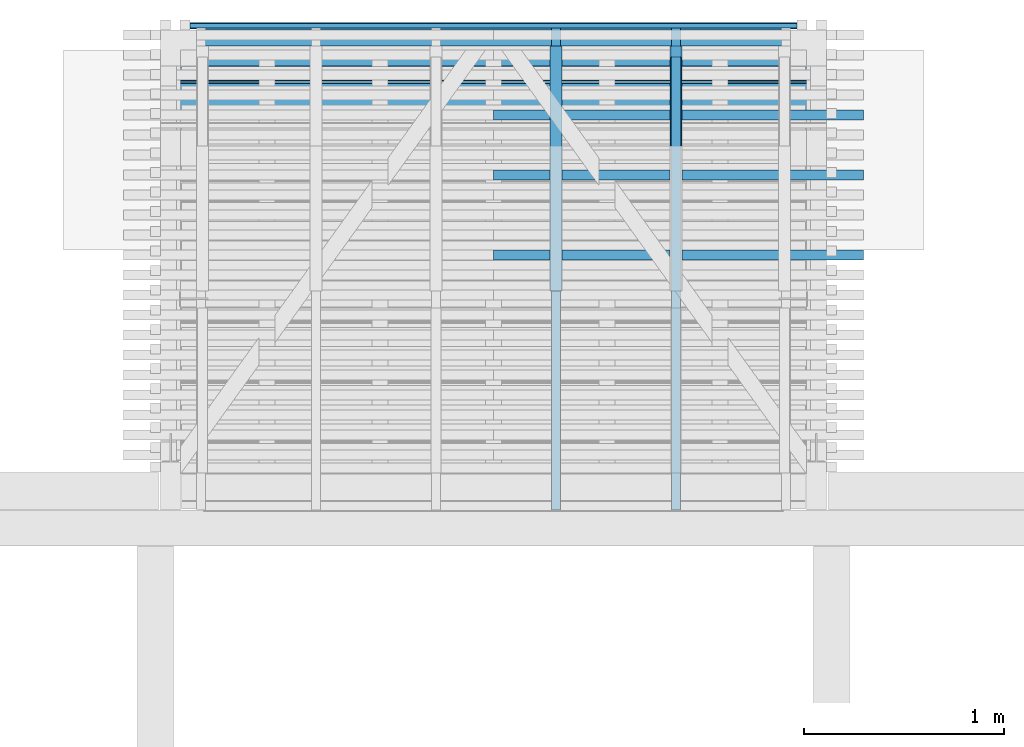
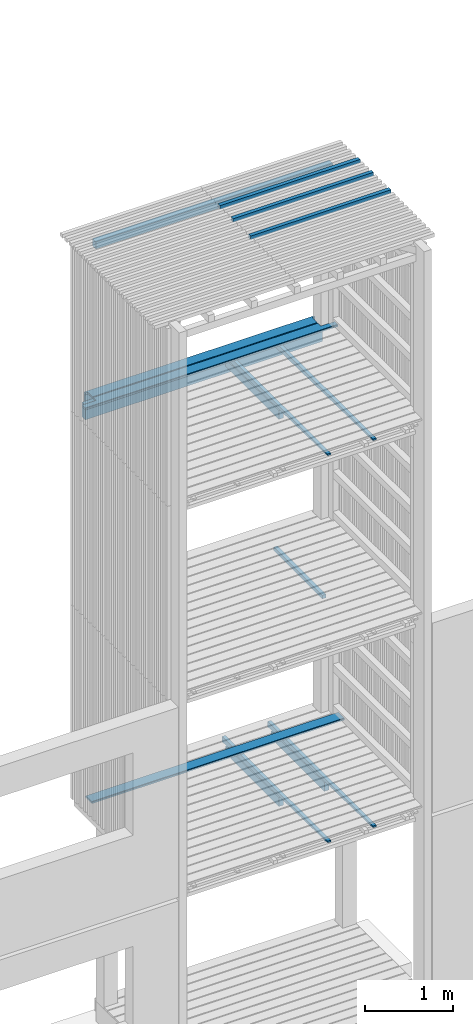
# One storey, part 26 of 182: 17 beams.
"""IFC2X3 building model written with IfcOpenShell, lengths in metres."""

from ifc_helpers import new_model, si_unit, frame, origin, place, context, project, spatial, faceted_brep, element, save


model = new_model("IFC2X3")

# Units and contexts
model_context = context("Model", 3, precision=1e-06, world=origin())
ifc_project = project(units=[si_unit("LENGTHUNIT", "METRE"), si_unit("PLANEANGLEUNIT", "RADIAN")], contexts=[model_context])

# Site, building, storey
site = spatial("IfcSite", under=ifc_project, CompositionType="ELEMENT")
building = spatial("IfcBuilding", under=site, CompositionType="ELEMENT")
storey = spatial("IfcBuildingStorey", under=building, Name="vs", CompositionType="ELEMENT", Elevation=-0.85)

# Beams
placement = place(None, origin())
beam_1_placement = place(placement, frame((6.496015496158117, 12.834577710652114, 8.13349999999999), z_axis=(0.0, 0.0, 1.0), x_axis=(-1.0, 0.0, 0.0)))
element("IfcBeam", 1, at=beam_1_placement, inside=storey, Name="Caillebotis", context=model_context, shape_type="Brep", body=[
    faceted_brep([(3.033636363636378, -0.072499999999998, -0.013500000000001), (3.033636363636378, -0.072499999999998, 0.0085), (2e-15, -0.072499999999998, 0.0085), (2e-15, -0.072499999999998, -0.013500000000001), (2.996818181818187, 0.072500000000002, 0.008499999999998), (2.996818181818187, 0.067500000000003, 0.013499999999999), (2.996818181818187, -0.040499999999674, 0.013499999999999), (2.996818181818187, -0.040499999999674, -0.013500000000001), (2.996818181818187, 0.072500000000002, -0.013500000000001), (0.036818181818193, -0.040499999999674, -0.013500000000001), (0.036818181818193, 0.072499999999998, -0.013500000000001), (2.996818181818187, 0.072500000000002, -0.013500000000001), (2.996818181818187, -0.040499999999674, -0.013500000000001), (3.033636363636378, -0.040499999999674, -0.013500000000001), (3.033636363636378, -0.072499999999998, -0.013500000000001), (2e-15, -0.072499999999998, -0.013500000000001), (2e-15, -0.040499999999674, -0.013500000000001), (3.033636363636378, -0.072499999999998, 0.0085), (3.033636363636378, -0.072499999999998, -0.013500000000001), (3.033636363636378, -0.040499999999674, -0.013500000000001), (3.033636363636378, -0.040499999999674, 0.013499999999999), (3.033636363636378, -0.067500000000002, 0.013499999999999), (3.033636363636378, -0.040499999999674, 0.013499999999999), (3.033636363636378, -0.040499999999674, -0.013500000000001), (2.996818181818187, -0.040499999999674, -0.013500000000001), (2.996818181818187, -0.040499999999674, 0.013499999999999), (2.996818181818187, 0.072500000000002, 0.008499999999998), (2.996818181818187, 0.072500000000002, -0.013500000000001), (0.036818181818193, 0.072499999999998, -0.013500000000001), (0.036818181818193, 0.072499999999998, 0.0085), (2.996818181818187, 0.067500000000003, 0.013499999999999), (2.996818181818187, 0.072500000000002, 0.008499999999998), (0.036818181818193, 0.072499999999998, 0.0085), (0.036818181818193, 0.067500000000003, 0.013499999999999), (0.036818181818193, 0.067500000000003, 0.013499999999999), (0.036818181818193, 0.072499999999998, 0.0085), (0.036818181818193, 0.072499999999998, -0.013500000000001), (0.036818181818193, -0.040499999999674, -0.013500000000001), (0.036818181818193, -0.040499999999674, 0.013499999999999), (0.036818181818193, -0.040499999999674, 0.013499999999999), (0.036818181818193, -0.040499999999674, -0.013500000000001), (2e-15, -0.040499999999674, -0.013500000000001), (2e-15, -0.040499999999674, 0.013499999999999), (3.033636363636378, -0.067500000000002, 0.013499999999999), (3.033636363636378, -0.040499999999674, 0.013499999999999), (2.996818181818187, -0.040499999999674, 0.013499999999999), (2.996818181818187, 0.067500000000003, 0.013499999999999), (0.036818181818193, 0.067500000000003, 0.013499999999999), (0.036818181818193, -0.040499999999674, 0.013499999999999), (2e-15, -0.040499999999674, 0.013499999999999), (2e-15, -0.067500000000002, 0.013499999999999), (2e-15, -0.072499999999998, 0.0085), (3.033636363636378, -0.072499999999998, 0.0085), (3.033636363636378, -0.067500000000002, 0.013499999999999), (2e-15, -0.067500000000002, 0.013499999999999), (2e-15, -0.072499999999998, -0.013500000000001), (2e-15, -0.072499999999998, 0.0085), (2e-15, -0.067500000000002, 0.013499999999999), (2e-15, -0.040499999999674, 0.013499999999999), (2e-15, -0.040499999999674, -0.013500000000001)], [[[0, 1, 2, 3]], [[4, 5, 6, 7, 8]], [[9, 10, 11, 12, 13, 14, 15, 16]], [[17, 18, 19, 20, 21]], [[22, 23, 24, 25]], [[26, 27, 28, 29]], [[30, 31, 32, 33]], [[34, 35, 36, 37, 38]], [[39, 40, 41, 42]], [[43, 44, 45, 46, 47, 48, 49, 50]], [[51, 52, 53, 54]], [[55, 56, 57, 58, 59]]]),
])
beam_2_placement = place(placement, frame((6.54419731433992, 12.830077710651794, 7.93999999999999), z_axis=(0.0, 0.0, 1.0), x_axis=(-1.0, 0.0, 0.0)))
element("IfcBeam", 2, at=beam_2_placement, inside=storey, Name="Sommier", context=model_context, shape_type="Brep", body=[
    faceted_brep([(3.129999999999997, -0.039999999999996, 0.1), (3.129999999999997, 0.040000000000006, 0.1), (1e-15, 0.040000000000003, 0.1), (1e-15, -0.039999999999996, 0.1), (3.129999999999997, -0.039999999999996, -0.100000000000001), (3.129999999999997, -0.039999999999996, 0.1), (1e-15, -0.039999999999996, 0.1), (1e-15, -0.039999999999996, -0.100000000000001), (3.129999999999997, -0.039999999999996, 0.1), (3.129999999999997, -0.039999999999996, -0.100000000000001), (3.129999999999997, 0.040000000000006, -0.1), (3.129999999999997, 0.040000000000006, 0.1), (3.129999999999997, 0.040000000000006, -0.1), (3.129999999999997, -0.039999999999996, -0.100000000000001), (1e-15, -0.039999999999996, -0.100000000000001), (1e-15, 0.040000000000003, -0.100000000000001), (1e-15, 0.040000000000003, 0.1), (3.129999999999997, 0.040000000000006, 0.1), (3.129999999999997, 0.040000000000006, -0.1), (1e-15, 0.040000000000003, -0.100000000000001), (1e-15, -0.039999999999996, 0.1), (1e-15, 0.040000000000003, 0.1), (1e-15, 0.040000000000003, -0.100000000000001), (1e-15, -0.039999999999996, -0.100000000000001)], [[[0, 1, 2, 3]], [[4, 5, 6, 7]], [[8, 9, 10, 11]], [[12, 13, 14, 15]], [[16, 17, 18, 19]], [[20, 21, 22, 23]]]),
])
beam_3_placement = place(placement, frame((6.644197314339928, 12.684577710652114, 8.13349999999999), z_axis=(0.0, 0.0, 1.0), x_axis=(-1.0, 0.0, 0.0)))
element("IfcBeam", 3, at=beam_3_placement, inside=storey, Name="Caillebotis", context=model_context, shape_type="Brep", body=[
    faceted_brep([(3.144999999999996, -0.000499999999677, 0.013499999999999), (3.144999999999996, -0.000499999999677, -0.013500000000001), (3.329999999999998, -0.000499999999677, -0.013500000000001), (3.329999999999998, -0.000499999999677, 0.013499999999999), (3.329999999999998, 0.072500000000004, -0.013500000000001), (3.329999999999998, 0.072500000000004, 0.0085), (3.329999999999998, 0.067500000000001, 0.013499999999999), (3.329999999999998, -0.000499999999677, 0.013499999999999), (3.329999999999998, -0.000499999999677, -0.013500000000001), (3.144999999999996, -0.072499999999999, 0.0085), (3.144999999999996, -0.072499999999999, -0.013500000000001), (3.144999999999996, -0.000499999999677, -0.013500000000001), (3.144999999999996, -0.000499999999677, 0.013499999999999), (3.144999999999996, -0.067499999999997, 0.013499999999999), (3.144999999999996, -0.072499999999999, -0.013500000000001), (3.144999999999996, -0.072499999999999, 0.0085), (0.185000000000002, -0.072499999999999, 0.008500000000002), (0.185000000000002, -0.072499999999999, -0.013500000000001), (3.144999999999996, -0.072499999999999, 0.0085), (3.144999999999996, -0.067499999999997, 0.013499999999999), (0.185000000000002, -0.0675, 0.013499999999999), (0.185000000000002, -0.072499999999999, 0.008500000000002), (0.185000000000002, -0.072499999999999, -0.013500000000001), (0.185000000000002, -0.072499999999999, 0.008500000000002), (0.185000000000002, -0.0675, 0.013499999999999), (0.185000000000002, -0.000499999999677, 0.013499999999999), (0.185000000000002, -0.000499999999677, -0.013500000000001), (0.0, -0.000499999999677, 0.013499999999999), (0.0, 0.067500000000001, 0.013499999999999), (0.0, 0.0725, 0.0085), (0.0, 0.0725, -0.013500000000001), (0.0, -0.000499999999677, -0.013500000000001), (3.329999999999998, 0.072500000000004, 0.0085), (3.329999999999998, 0.072500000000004, -0.013500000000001), (0.0, 0.0725, -0.013500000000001), (0.0, 0.0725, 0.0085), (3.329999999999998, 0.067500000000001, 0.013499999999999), (3.329999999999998, 0.072500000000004, 0.0085), (0.0, 0.0725, 0.0085), (0.0, 0.067500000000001, 0.013499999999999), (3.144999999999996, -0.067499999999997, 0.013499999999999), (3.144999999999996, -0.000499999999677, 0.013499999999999), (3.329999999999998, -0.000499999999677, 0.013499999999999), (3.329999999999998, 0.067500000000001, 0.013499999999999), (0.0, 0.067500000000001, 0.013499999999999), (0.0, -0.000499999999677, 0.013499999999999), (0.185000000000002, -0.000499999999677, 0.013499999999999), (0.185000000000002, -0.0675, 0.013499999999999), (0.185000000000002, -0.000499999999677, -0.013500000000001), (0.185000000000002, -0.000499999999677, 0.013499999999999), (0.0, -0.000499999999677, 0.013499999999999), (0.0, -0.000499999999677, -0.013500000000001), (0.0, -0.000499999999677, -0.013500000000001), (0.0, 0.0725, -0.013500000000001), (3.329999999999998, 0.072500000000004, -0.013500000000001), (3.329999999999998, -0.000499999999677, -0.013500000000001), (3.144999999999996, -0.000499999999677, -0.013500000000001), (3.144999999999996, -0.072499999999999, -0.013500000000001), (0.185000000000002, -0.072499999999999, -0.013500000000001), (0.185000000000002, -0.000499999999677, -0.013500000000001)], [[[0, 1, 2, 3]], [[4, 5, 6, 7, 8]], [[9, 10, 11, 12, 13]], [[14, 15, 16, 17]], [[18, 19, 20, 21]], [[22, 23, 24, 25, 26]], [[27, 28, 29, 30, 31]], [[32, 33, 34, 35]], [[36, 37, 38, 39]], [[40, 41, 42, 43, 44, 45, 46, 47]], [[48, 49, 50, 51]], [[52, 53, 54, 55, 56, 57, 58, 59]]]),
])
beam_4_placement = place(placement, frame((3.462379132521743, 12.893577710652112, 8.042499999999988), z_axis=(0.0, 1.0, 0.0), x_axis=(1.0, 0.0, 0.0)))
element("IfcBeam", 4, at=beam_4_placement, inside=storey, Name="Caillebotis", context=model_context, shape_type="Brep", body=[
    faceted_brep([(-3e-15, -0.072500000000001, -0.013500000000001), (-3e-15, 0.072499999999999, -0.013500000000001), (3.033636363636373, 0.072499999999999, -0.013500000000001), (3.033636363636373, -0.072500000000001, -0.013500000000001), (-3e-15, -0.072500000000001, 0.008500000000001), (-3e-15, -0.072500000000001, -0.013500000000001), (3.033636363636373, -0.072500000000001, -0.013500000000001), (3.033636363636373, -0.072500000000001, 0.008500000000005), (-3e-15, -0.067500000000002, 0.0135), (-3e-15, -0.072500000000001, 0.008500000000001), (3.033636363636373, -0.072500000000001, 0.008500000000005), (3.033636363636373, -0.067500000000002, 0.013500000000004), (-3e-15, -0.072500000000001, -0.013500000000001), (-3e-15, -0.072500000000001, 0.008500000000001), (-3e-15, -0.067500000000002, 0.0135), (-3e-15, 0.0675, 0.0135), (-3e-15, 0.072499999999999, 0.008500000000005), (-3e-15, 0.072499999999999, -0.013500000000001), (-3e-15, 0.0675, 0.0135), (-3e-15, -0.067500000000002, 0.0135), (3.033636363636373, -0.067500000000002, 0.013500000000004), (3.033636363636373, 0.0675, 0.013500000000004), (-3e-15, 0.072499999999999, 0.008500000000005), (-3e-15, 0.0675, 0.0135), (3.033636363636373, 0.0675, 0.013500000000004), (3.033636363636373, 0.072499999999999, 0.008500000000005), (3.033636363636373, 0.072499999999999, -0.013500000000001), (-3e-15, 0.072499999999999, -0.013500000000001), (-3e-15, 0.072499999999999, 0.008500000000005), (3.033636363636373, 0.072499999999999, 0.008500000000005), (3.033636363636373, -0.072500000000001, 0.008500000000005), (3.033636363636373, -0.072500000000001, -0.013500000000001), (3.033636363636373, 0.072499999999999, -0.013500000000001), (3.033636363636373, 0.072499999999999, 0.008500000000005), (3.033636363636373, 0.0675, 0.013500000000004), (3.033636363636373, -0.067500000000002, 0.013500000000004)], [[[0, 1, 2, 3]], [[4, 5, 6, 7]], [[8, 9, 10, 11]], [[12, 13, 14, 15, 16, 17]], [[18, 19, 20, 21]], [[22, 23, 24, 25]], [[26, 27, 28, 29]], [[30, 31, 32, 33, 34, 35]]]),
])
beam_5_placement = place(placement, frame((6.644197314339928, 12.534577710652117, 2.733499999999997), z_axis=(0.0, 0.0, 1.0), x_axis=(-1.0, -1e-15, 0.0)))
element("IfcBeam", 5, at=beam_5_placement, inside=storey, Name="Caillebotis", context=model_context, shape_type="Brep", body=[
    faceted_brep([(3.329999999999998, -0.072500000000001, -0.0135), (3.329999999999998, 0.072500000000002, -0.0135), (3.329999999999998, 0.072500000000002, 0.008500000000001), (3.329999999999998, 0.067499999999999, 0.0135), (3.329999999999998, -0.067499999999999, 0.0135), (3.329999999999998, -0.072500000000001, 0.008500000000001), (0.0, -0.072499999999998, 0.008500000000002), (0.0, -0.067499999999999, 0.0135), (0.0, 0.067500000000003, 0.0135), (0.0, 0.072500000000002, 0.008500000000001), (0.0, 0.072500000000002, -0.0135), (0.0, -0.072499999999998, -0.0135), (3.329999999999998, 0.072500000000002, 0.008500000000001), (3.329999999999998, 0.072500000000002, -0.0135), (0.0, 0.072500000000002, -0.0135), (0.0, 0.072500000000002, 0.008500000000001), (3.329999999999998, 0.067499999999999, 0.0135), (3.329999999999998, 0.072500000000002, 0.008500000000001), (0.0, 0.072500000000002, 0.008500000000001), (0.0, 0.067500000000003, 0.0135), (3.329999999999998, -0.067499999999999, 0.0135), (3.329999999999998, 0.067499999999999, 0.0135), (0.0, 0.067500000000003, 0.0135), (0.0, -0.067499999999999, 0.0135), (3.329999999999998, -0.072500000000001, 0.008500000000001), (3.329999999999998, -0.067499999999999, 0.0135), (0.0, -0.067499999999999, 0.0135), (0.0, -0.072499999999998, 0.008500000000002), (3.329999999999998, -0.072500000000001, -0.0135), (3.329999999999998, -0.072500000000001, 0.008500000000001), (0.0, -0.072499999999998, 0.008500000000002), (0.0, -0.072499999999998, -0.0135), (0.0, 0.072500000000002, -0.0135), (3.329999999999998, 0.072500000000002, -0.0135), (3.329999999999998, -0.072500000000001, -0.0135), (0.0, -0.072499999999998, -0.0135)], [[[0, 1, 2, 3, 4, 5]], [[6, 7, 8, 9, 10, 11]], [[12, 13, 14, 15]], [[16, 17, 18, 19]], [[20, 21, 22, 23]], [[24, 25, 26, 27]], [[28, 29, 30, 31]], [[32, 33, 34, 35]]]),
])
beam_6_placement = place(placement, frame((6.624197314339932, 12.730077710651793, 10.30499999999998), z_axis=(0.0, 0.0, 1.0), x_axis=(-1.0, 0.0, 0.0)))
element("IfcBeam", 6, at=beam_6_placement, inside=storey, Name="Support bardage", context=model_context, shape_type="Brep", body=[
    faceted_brep([(3e-15, 0.04, -0.050000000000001), (3e-15, -0.039999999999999, -0.050000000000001), (3e-15, -0.039999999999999, 0.050000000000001), (3e-15, 0.04, 0.050000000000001), (3.129999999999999, -0.039999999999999, 0.050000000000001), (3.129999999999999, -0.039999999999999, -0.050000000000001), (3.129999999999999, 0.04, -0.050000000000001), (3.129999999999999, 0.04, 0.050000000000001), (3e-15, -0.039999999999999, -0.050000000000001), (3e-15, 0.04, -0.050000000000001), (3.129999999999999, 0.04, -0.050000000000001), (3.129999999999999, -0.039999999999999, -0.050000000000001), (3e-15, -0.039999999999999, 0.050000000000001), (3e-15, -0.039999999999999, -0.050000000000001), (3.129999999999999, -0.039999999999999, -0.050000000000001), (3.129999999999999, -0.039999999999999, 0.050000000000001), (3e-15, 0.04, 0.050000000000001), (3e-15, -0.039999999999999, 0.050000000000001), (3.129999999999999, -0.039999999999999, 0.050000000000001), (3.129999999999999, 0.04, 0.050000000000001), (3.129999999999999, 0.04, -0.050000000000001), (3e-15, 0.04, -0.050000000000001), (3e-15, 0.04, 0.050000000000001), (3.129999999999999, 0.04, 0.050000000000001)], [[[0, 1, 2, 3]], [[4, 5, 6, 7]], [[8, 9, 10, 11]], [[12, 13, 14, 15]], [[16, 17, 18, 19]], [[20, 21, 22, 23]]]),
])
beam_7_placement = place(placement, frame((6.829197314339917, 12.145077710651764, 10.47999999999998), z_axis=(0.0, 0.0, 1.0), x_axis=(-1.0, 0.0, 0.0)))
element("IfcBeam", 7, at=beam_7_placement, inside=storey, Name="Bardage", context=model_context, shape_type="Brep", body=[
    faceted_brep([(-3e-15, 0.024999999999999, 0.025000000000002), (-3e-15, -0.025000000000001, 0.025000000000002), (1.849999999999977, -0.025000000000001, 0.025000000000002), (1.849999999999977, 0.024999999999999, 0.025000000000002), (1.849999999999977, -0.025000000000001, 0.025000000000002), (-3e-15, -0.025000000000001, 0.025000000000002), (-3e-15, -0.025000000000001, -0.024999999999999), (1.849999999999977, -0.025000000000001, -0.024999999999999), (-3e-15, -0.025000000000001, 0.025000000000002), (-3e-15, 0.024999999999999, 0.025000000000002), (-3e-15, 0.024999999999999, -0.024999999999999), (-3e-15, -0.025000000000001, -0.024999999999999), (-3e-15, 0.024999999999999, -0.024999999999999), (-3e-15, 0.024999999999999, 0.025000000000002), (1.849999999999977, 0.024999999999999, 0.025000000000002), (1.849999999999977, 0.024999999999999, -0.024999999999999), (1.849999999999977, -0.025000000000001, -0.024999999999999), (-3e-15, -0.025000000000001, -0.024999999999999), (-3e-15, 0.024999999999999, -0.024999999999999), (1.849999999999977, 0.024999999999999, -0.024999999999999), (1.849999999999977, -0.025000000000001, 0.025000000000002), (1.849999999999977, -0.025000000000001, -0.024999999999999), (1.849999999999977, 0.024999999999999, -0.024999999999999), (1.849999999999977, 0.024999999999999, 0.025000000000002)], [[[0, 1, 2, 3]], [[4, 5, 6, 7]], [[8, 9, 10, 11]], [[12, 13, 14, 15]], [[16, 17, 18, 19]], [[20, 21, 22, 23]]]),
])
beam_8_placement = place(placement, frame((6.829197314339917, 12.445077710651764, 10.47999999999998), z_axis=(0.0, 0.0, 1.0), x_axis=(-1.0, 2e-15, 0.0)))
element("IfcBeam", 8, at=beam_8_placement, inside=storey, Name="Bardage", context=model_context, shape_type="Brep", body=[
    faceted_brep([(-3e-15, 0.024999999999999, 0.025000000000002), (-3e-15, -0.025000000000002, 0.025000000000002), (1.849999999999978, -0.024999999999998, 0.025000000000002), (1.849999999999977, 0.025000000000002, 0.025000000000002), (1.849999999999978, -0.024999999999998, 0.025000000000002), (-3e-15, -0.025000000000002, 0.025000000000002), (-3e-15, -0.025000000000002, -0.024999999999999), (1.849999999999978, -0.024999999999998, -0.024999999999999), (-3e-15, -0.025000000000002, 0.025000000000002), (-3e-15, 0.024999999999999, 0.025000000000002), (-3e-15, 0.024999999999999, -0.024999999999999), (-3e-15, -0.025000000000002, -0.024999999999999), (-3e-15, 0.024999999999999, -0.024999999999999), (-3e-15, 0.024999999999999, 0.025000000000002), (1.849999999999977, 0.025000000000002, 0.025000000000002), (1.849999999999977, 0.025000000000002, -0.024999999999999), (1.849999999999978, -0.024999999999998, -0.024999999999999), (-3e-15, -0.025000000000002, -0.024999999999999), (-3e-15, 0.024999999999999, -0.024999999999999), (1.849999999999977, 0.025000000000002, -0.024999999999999), (1.849999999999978, -0.024999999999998, 0.025000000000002), (1.849999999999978, -0.024999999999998, -0.024999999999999), (1.849999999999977, 0.025000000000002, -0.024999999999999), (1.849999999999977, 0.025000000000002, 0.025000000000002)], [[[0, 1, 2, 3]], [[4, 5, 6, 7]], [[8, 9, 10, 11]], [[12, 13, 14, 15]], [[16, 17, 18, 19]], [[20, 21, 22, 23]]]),
])
beam_9_placement = place(placement, frame((6.829197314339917, 11.745077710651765, 10.47999999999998), z_axis=(0.0, 0.0, 1.0), x_axis=(-1.0, 0.0, 0.0)))
element("IfcBeam", 9, at=beam_9_placement, inside=storey, Name="Bardage", context=model_context, shape_type="Brep", body=[
    faceted_brep([(-3e-15, 0.024999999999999, 0.025000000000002), (-3e-15, -0.024999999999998, 0.025000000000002), (1.849999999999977, -0.024999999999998, 0.025000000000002), (1.849999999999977, 0.024999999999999, 0.025000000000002), (1.849999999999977, -0.024999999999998, 0.025000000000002), (-3e-15, -0.024999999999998, 0.025000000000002), (-3e-15, -0.024999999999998, -0.024999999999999), (1.849999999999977, -0.024999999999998, -0.024999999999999), (-3e-15, -0.024999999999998, 0.025000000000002), (-3e-15, 0.024999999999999, 0.025000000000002), (-3e-15, 0.024999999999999, -0.024999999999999), (-3e-15, -0.024999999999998, -0.024999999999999), (-3e-15, 0.024999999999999, -0.024999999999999), (-3e-15, 0.024999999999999, 0.025000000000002), (1.849999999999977, 0.024999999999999, 0.025000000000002), (1.849999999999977, 0.024999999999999, -0.024999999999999), (1.849999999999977, -0.024999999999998, -0.024999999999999), (-3e-15, -0.024999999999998, -0.024999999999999), (-3e-15, 0.024999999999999, -0.024999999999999), (1.849999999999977, 0.024999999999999, -0.024999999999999), (1.849999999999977, -0.024999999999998, 0.025000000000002), (1.849999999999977, -0.024999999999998, -0.024999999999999), (1.849999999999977, 0.024999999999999, -0.024999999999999), (1.849999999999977, 0.024999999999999, 0.025000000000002)], [[[0, 1, 2, 3]], [[4, 5, 6, 7]], [[8, 9, 10, 11]], [[12, 13, 14, 15]], [[16, 17, 18, 19]], [[20, 21, 22, 23]]]),
])
beam_10_placement = place(placement, frame((5.292197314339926, 11.565077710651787, 2.604249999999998), z_axis=(0.0, 0.0, 1.0), x_axis=(0.0, 1.0, 0.0)))
element("IfcBeam", 10, at=beam_10_placement, inside=storey, Name="Solive", context=model_context, shape_type="Brep", body=[
    faceted_brep([(0.0, -0.030000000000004, -0.06185), (1.225000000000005, -0.030000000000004, -0.06185), (1.225000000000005, -0.030000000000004, 0.037349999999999), (0.0, -0.030000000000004, 0.06185), (0.0, 0.029999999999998, 0.06185), (0.0, 0.029999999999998, -0.06185), (0.0, -0.030000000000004, -0.06185), (0.0, -0.030000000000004, 0.06185), (0.0, -0.030000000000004, -0.06185), (0.0, 0.029999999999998, -0.06185), (1.225000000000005, 0.029999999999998, -0.06185), (1.225000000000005, -0.030000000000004, -0.06185), (1.225000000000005, 0.029999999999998, -0.06185), (0.0, 0.029999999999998, -0.06185), (0.0, 0.029999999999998, 0.06185), (1.225000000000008, 0.029999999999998, 0.037349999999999), (1.225000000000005, -0.030000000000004, 0.037349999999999), (1.225000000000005, -0.030000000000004, -0.06185), (1.225000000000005, 0.029999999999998, -0.06185), (1.225000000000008, 0.029999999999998, 0.037349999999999), (0.0, -0.030000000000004, 0.06185), (1.225000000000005, -0.030000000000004, 0.037349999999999), (1.225000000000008, 0.029999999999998, 0.037349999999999), (0.0, 0.029999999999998, 0.06185)], [[[0, 1, 2, 3]], [[4, 5, 6, 7]], [[8, 9, 10, 11]], [[12, 13, 14, 15]], [[16, 17, 18, 19]], [[20, 21, 22, 23]]]),
])
beam_11_placement = place(placement, frame((5.892197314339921, 11.565077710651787, 2.604249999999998), z_axis=(0.0, 0.0, 1.0), x_axis=(0.0, 1.0, 0.0)))
element("IfcBeam", 11, at=beam_11_placement, inside=storey, Name="Solive", context=model_context, shape_type="Brep", body=[
    faceted_brep([(0.0, -0.029999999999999, -0.06185), (1.225000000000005, -0.029999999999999, -0.06185), (1.225000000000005, -0.029999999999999, 0.037349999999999), (0.0, -0.029999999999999, 0.06185), (0.0, 0.030000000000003, -0.06185), (1.225000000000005, 0.029999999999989, -0.06185), (1.225000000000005, -0.029999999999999, -0.06185), (0.0, -0.029999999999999, -0.06185), (0.0, 0.030000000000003, 0.06185), (0.0, 0.030000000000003, -0.06185), (0.0, -0.029999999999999, -0.06185), (0.0, -0.029999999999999, 0.06185), (1.225000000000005, 0.029999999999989, -0.06185), (0.0, 0.030000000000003, -0.06185), (0.0, 0.030000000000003, 0.06185), (1.225000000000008, 0.029999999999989, 0.03735), (1.225000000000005, -0.029999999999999, 0.037349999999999), (1.225000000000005, -0.029999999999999, -0.06185), (1.225000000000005, 0.029999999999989, -0.06185), (1.225000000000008, 0.029999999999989, 0.03735), (0.0, -0.029999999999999, 0.06185), (1.225000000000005, -0.029999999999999, 0.037349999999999), (1.225000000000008, 0.029999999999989, 0.03735), (0.0, 0.030000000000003, 0.06185)], [[[0, 1, 2, 3]], [[4, 5, 6, 7]], [[8, 9, 10, 11]], [[12, 13, 14, 15]], [[16, 17, 18, 19]], [[20, 21, 22, 23]]]),
])
beam_12_placement = place(placement, frame((5.292197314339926, 11.565077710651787, 8.00424999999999), z_axis=(0.0, 0.0, 1.0), x_axis=(0.0, 1.0, 0.0)))
element("IfcBeam", 12, at=beam_12_placement, inside=storey, Name="Solive", context=model_context, shape_type="Brep", body=[
    faceted_brep([(0.0, -0.030000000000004, -0.061849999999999), (1.225000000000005, -0.030000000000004, -0.061849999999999), (1.225000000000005, -0.030000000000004, 0.037349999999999), (0.0, -0.030000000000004, 0.061849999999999), (0.0, 0.029999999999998, 0.061850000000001), (0.0, 0.029999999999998, -0.061849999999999), (0.0, -0.030000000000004, -0.061849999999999), (0.0, -0.030000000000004, 0.061849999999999), (0.0, -0.030000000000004, -0.061849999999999), (0.0, 0.029999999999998, -0.061849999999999), (1.225000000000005, 0.029999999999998, -0.061849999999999), (1.225000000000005, -0.030000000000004, -0.061849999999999), (1.225000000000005, 0.029999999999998, -0.061849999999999), (0.0, 0.029999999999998, -0.061849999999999), (0.0, 0.029999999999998, 0.061850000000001), (1.225000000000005, 0.029999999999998, 0.037349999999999), (1.225000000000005, -0.030000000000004, 0.037349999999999), (1.225000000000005, -0.030000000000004, -0.061849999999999), (1.225000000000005, 0.029999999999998, -0.061849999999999), (1.225000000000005, 0.029999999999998, 0.037349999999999), (0.0, -0.030000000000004, 0.061849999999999), (1.225000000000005, -0.030000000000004, 0.037349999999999), (1.225000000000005, 0.029999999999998, 0.037349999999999), (0.0, 0.029999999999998, 0.061850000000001)], [[[0, 1, 2, 3]], [[4, 5, 6, 7]], [[8, 9, 10, 11]], [[12, 13, 14, 15]], [[16, 17, 18, 19]], [[20, 21, 22, 23]]]),
])
beam_13_placement = place(placement, frame((5.292197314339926, 10.470077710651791, 2.684400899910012), z_axis=(0.0, 0.0, 1.0), x_axis=(0.0, 1.0, 0.0)))
element("IfcBeam", 13, at=beam_13_placement, inside=storey, Name="Calage", context=model_context, shape_type="Brep", body=[
    faceted_brep([(2.410000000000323, -0.022499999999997, -0.035599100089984), (0.0, -0.022499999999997, 0.012600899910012), (0.0, 0.022500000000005, 0.012600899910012), (2.410000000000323, 0.02249999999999, -0.035599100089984), (0.0, 0.022500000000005, 0.035599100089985), (0.0, 0.022500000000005, 0.012600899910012), (0.0, -0.022499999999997, 0.012600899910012), (0.0, -0.022499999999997, 0.035599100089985), (2.410000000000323, 0.02249999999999, -0.035599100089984), (0.0, 0.022500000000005, 0.012600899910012), (0.0, 0.022500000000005, 0.035599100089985), (2.410000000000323, 0.022500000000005, 0.035599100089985), (2.410000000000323, -0.022499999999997, 0.035599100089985), (0.0, -0.022499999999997, 0.035599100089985), (0.0, -0.022499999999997, 0.012600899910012), (2.410000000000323, -0.022499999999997, -0.035599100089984), (2.410000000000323, 0.022500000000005, 0.035599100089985), (0.0, 0.022500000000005, 0.035599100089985), (0.0, -0.022499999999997, 0.035599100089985), (2.410000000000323, -0.022499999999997, 0.035599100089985), (2.410000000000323, 0.02249999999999, -0.035599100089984), (2.410000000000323, 0.022500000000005, 0.035599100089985), (2.410000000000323, -0.022499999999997, 0.035599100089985), (2.410000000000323, -0.022499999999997, -0.035599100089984)], [[[0, 1, 2, 3]], [[4, 5, 6, 7]], [[8, 9, 10, 11]], [[12, 13, 14, 15]], [[16, 17, 18, 19]], [[20, 21, 22, 23]]]),
])
beam_14_placement = place(placement, frame((5.892197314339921, 10.470077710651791, 8.084400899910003), z_axis=(0.0, 0.0, 1.0), x_axis=(6e-15, 1.0, 0.0)))
element("IfcBeam", 14, at=beam_14_placement, inside=storey, Name="Calage", context=model_context, shape_type="Brep", body=[
    faceted_brep([(2.410000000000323, -0.022499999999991, -0.035599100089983), (0.0, -0.022500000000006, 0.012600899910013), (0.0, 0.022499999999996, 0.012600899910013), (2.410000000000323, 0.022500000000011, -0.035599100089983), (0.0, 0.022499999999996, 0.035599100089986), (0.0, 0.022499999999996, 0.012600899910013), (0.0, -0.022500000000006, 0.012600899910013), (0.0, -0.022500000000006, 0.035599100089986), (2.410000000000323, 0.022500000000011, -0.035599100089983), (0.0, 0.022499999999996, 0.012600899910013), (0.0, 0.022499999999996, 0.035599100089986), (2.410000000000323, 0.022500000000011, 0.035599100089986), (2.410000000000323, -0.022499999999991, 0.035599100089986), (0.0, -0.022500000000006, 0.035599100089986), (0.0, -0.022500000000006, 0.012600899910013), (2.410000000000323, -0.022499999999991, -0.035599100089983), (2.410000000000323, 0.022500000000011, 0.035599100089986), (0.0, 0.022499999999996, 0.035599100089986), (0.0, -0.022500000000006, 0.035599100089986), (2.410000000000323, -0.022499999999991, 0.035599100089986), (2.410000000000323, 0.022500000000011, -0.035599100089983), (2.410000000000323, 0.022500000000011, 0.035599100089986), (2.410000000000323, -0.022499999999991, 0.035599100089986), (2.410000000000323, -0.022499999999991, -0.035599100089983)], [[[0, 1, 2, 3]], [[4, 5, 6, 7]], [[8, 9, 10, 11]], [[12, 13, 14, 15]], [[16, 17, 18, 19]], [[20, 21, 22, 23]]]),
])
beam_15_placement = place(placement, frame((5.892197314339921, 10.470077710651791, 2.684400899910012), z_axis=(0.0, 0.0, 1.0), x_axis=(0.0, 1.0, 0.0)))
element("IfcBeam", 15, at=beam_15_placement, inside=storey, Name="Calage", context=model_context, shape_type="Brep", body=[
    faceted_brep([(2.410000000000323, -0.022500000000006, -0.035599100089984), (0.0, -0.022500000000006, 0.012600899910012), (0.0, 0.022499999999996, 0.012600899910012), (2.410000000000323, 0.022499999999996, -0.035599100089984), (0.0, 0.022499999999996, 0.035599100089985), (0.0, 0.022499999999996, 0.012600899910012), (0.0, -0.022500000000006, 0.012600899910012), (0.0, -0.022500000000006, 0.035599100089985), (2.410000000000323, 0.022499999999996, -0.035599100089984), (0.0, 0.022499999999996, 0.012600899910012), (0.0, 0.022499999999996, 0.035599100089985), (2.410000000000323, 0.022499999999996, 0.035599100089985), (2.410000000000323, -0.022500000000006, 0.035599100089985), (0.0, -0.022500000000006, 0.035599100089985), (0.0, -0.022500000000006, 0.012600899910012), (2.410000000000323, -0.022500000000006, -0.035599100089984), (2.410000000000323, 0.022499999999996, 0.035599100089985), (0.0, 0.022499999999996, 0.035599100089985), (0.0, -0.022500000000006, 0.035599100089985), (2.410000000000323, -0.022500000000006, 0.035599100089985), (2.410000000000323, 0.022499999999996, -0.035599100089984), (2.410000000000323, 0.022499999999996, 0.035599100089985), (2.410000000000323, -0.022500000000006, 0.035599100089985), (2.410000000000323, -0.022500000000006, -0.035599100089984)], [[[0, 1, 2, 3]], [[4, 5, 6, 7]], [[8, 9, 10, 11]], [[12, 13, 14, 15]], [[16, 17, 18, 19]], [[20, 21, 22, 23]]]),
])
beam_16_placement = place(placement, frame((5.292197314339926, 10.470077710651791, 8.084400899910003), z_axis=(0.0, 0.0, 1.0), x_axis=(0.0, 1.0, 0.0)))
element("IfcBeam", 16, at=beam_16_placement, inside=storey, Name="Calage", context=model_context, shape_type="Brep", body=[
    faceted_brep([(2.410000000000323, -0.022499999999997, -0.035599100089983), (0.0, -0.022499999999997, 0.012600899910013), (0.0, 0.02249999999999, 0.012600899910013), (2.410000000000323, 0.02249999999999, -0.035599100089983), (0.0, 0.02249999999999, 0.035599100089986), (0.0, 0.02249999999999, 0.012600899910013), (0.0, -0.022499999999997, 0.012600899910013), (0.0, -0.022499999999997, 0.035599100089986), (2.410000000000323, 0.02249999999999, -0.035599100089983), (0.0, 0.02249999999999, 0.012600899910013), (0.0, 0.02249999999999, 0.035599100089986), (2.410000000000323, 0.02249999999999, 0.035599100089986), (2.410000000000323, -0.022499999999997, 0.035599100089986), (0.0, -0.022499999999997, 0.035599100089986), (0.0, -0.022499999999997, 0.012600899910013), (2.410000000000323, -0.022499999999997, -0.035599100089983), (2.410000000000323, 0.02249999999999, 0.035599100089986), (0.0, 0.02249999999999, 0.035599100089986), (0.0, -0.022499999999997, 0.035599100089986), (2.410000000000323, -0.022499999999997, 0.035599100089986), (2.410000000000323, 0.02249999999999, -0.035599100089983), (2.410000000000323, 0.02249999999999, 0.035599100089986), (2.410000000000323, -0.022499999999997, 0.035599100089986), (2.410000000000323, -0.022499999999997, -0.035599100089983)], [[[0, 1, 2, 3]], [[4, 5, 6, 7]], [[8, 9, 10, 11]], [[12, 13, 14, 15]], [[16, 17, 18, 19]], [[20, 21, 22, 23]]]),
])
beam_17_placement = place(placement, frame((5.892197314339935, 12.735077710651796, 5.217399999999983), z_axis=(0.0, 0.0, 1.0), x_axis=(0.0, -1.0, 0.0)))
element("IfcBeam", 17, at=beam_17_placement, inside=storey, Name="Calage", context=model_context, shape_type="Brep", body=[
    faceted_brep([(0.0, -0.025000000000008, -0.025), (0.0, -0.025000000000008, 0.024999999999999), (0.0, 0.024999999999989, 0.024999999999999), (0.0, 0.024999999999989, -0.025), (1.115000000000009, 0.024999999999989, 0.024999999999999), (1.115000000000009, -0.025000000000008, 0.024999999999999), (1.115000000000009, -0.025000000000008, -0.025), (1.115000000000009, 0.024999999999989, -0.025), (0.0, 0.024999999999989, 0.024999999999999), (0.0, -0.025000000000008, 0.024999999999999), (1.115000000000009, -0.025000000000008, 0.024999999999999), (1.115000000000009, 0.024999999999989, 0.024999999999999), (1.115000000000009, -0.025000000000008, 0.024999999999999), (0.0, -0.025000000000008, 0.024999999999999), (0.0, -0.025000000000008, -0.025), (1.115000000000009, -0.025000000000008, -0.025), (1.115000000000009, -0.025000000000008, -0.025), (0.0, -0.025000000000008, -0.025), (0.0, 0.024999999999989, -0.025), (1.115000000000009, 0.024999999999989, -0.025), (1.115000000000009, 0.024999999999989, -0.025), (0.0, 0.024999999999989, -0.025), (0.0, 0.024999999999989, 0.024999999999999), (1.115000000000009, 0.024999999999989, 0.024999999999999)], [[[0, 1, 2, 3]], [[4, 5, 6, 7]], [[8, 9, 10, 11]], [[12, 13, 14, 15]], [[16, 17, 18, 19]], [[20, 21, 22, 23]]]),
])

save(model, "model.ifc")
